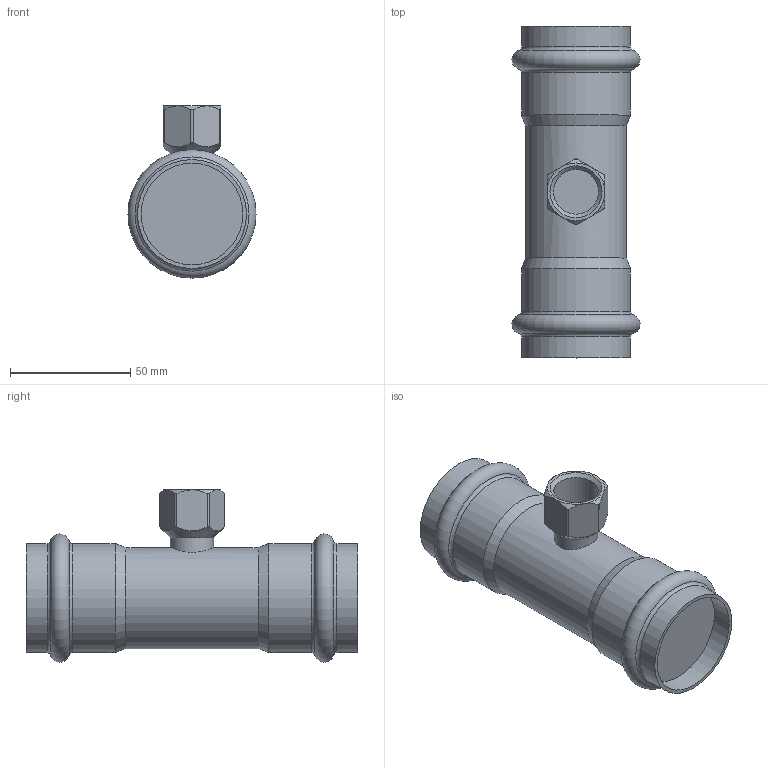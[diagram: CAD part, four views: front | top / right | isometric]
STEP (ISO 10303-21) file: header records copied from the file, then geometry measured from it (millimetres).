
FILE_DESCRIPTION(('STEP AP203'), '1');
FILE_NAME('VTi.932.I.420442', '', ('UNSPECIFIED'), ('UNSPECIFIED'), 'C3D Converter', 'C3D Toolkit', '');
FILE_SCHEMA(('CONFIG_CONTROL_DESIGN'));
Length unit declared in the file: millimetre
Products named in the file (1): ВР.302669.164.000 СБ
Bounding box: 53.3 x 138 x 71.65 mm (x, y, z)
Volume: 198789.3 mm3; surface area: 29100.9 mm2
Topology: 1 solids, 1 shells, 43 faces, 94 edges, 56 vertices
Faces by surface type: cylinder 15, plane 12, cone 10, torus 6
Full cylindrical faces by diameter (mm): 18 x1, 18.632 x1, 42 x1, 42.3 x2, 45.3 x4
Entity records: 2401 total; most frequent: CARTESIAN_POINT 1547, DIRECTION 156, ORIENTED_EDGE 148, EDGE_CURVE 74, AXIS2_PLACEMENT_3D 72, EDGE_LOOP 66, VERTEX_POINT 56, ADVANCED_FACE 43
